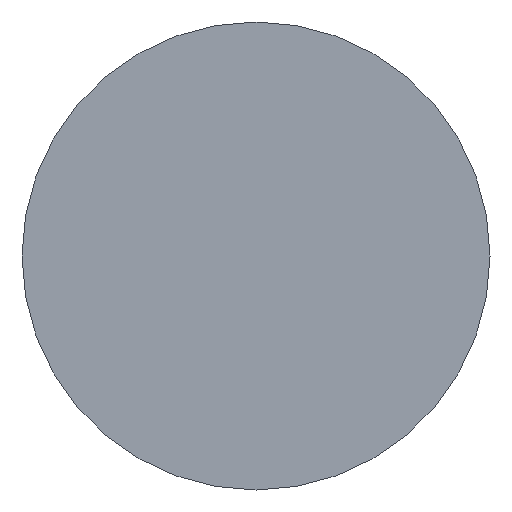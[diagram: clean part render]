
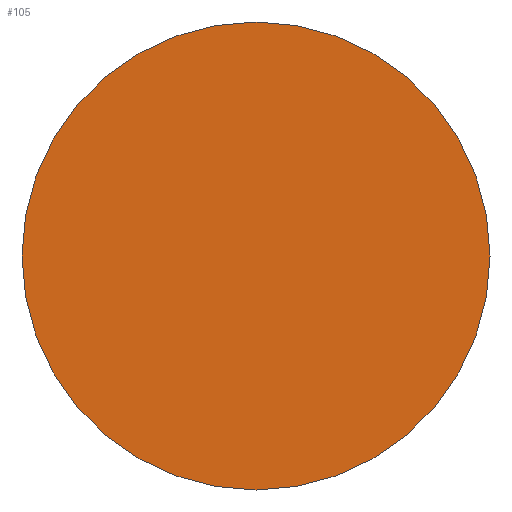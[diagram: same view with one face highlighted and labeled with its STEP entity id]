
A CAD part, front view. The second image highlights one B-rep face of the part: STEP entity #105.
In plain terms, the highlighted planar face has unit normal (0, -1, 0).
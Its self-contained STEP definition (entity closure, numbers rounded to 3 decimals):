
#22 = VERTEX_POINT('',#23);
#23 = CARTESIAN_POINT('',(52.235,38.,-256.978));
#32 = CYLINDRICAL_SURFACE('',#33,2.);
#33 = AXIS2_PLACEMENT_3D('',#34,#35,#36);
#34 = CARTESIAN_POINT('',(50.235,38.,-256.978));
#35 = DIRECTION('',(0.,-1.,-0.));
#36 = DIRECTION('',(1.,0.,0.));
#79 = EDGE_CURVE('',#22,#22,#80,.T.);
#80 = SURFACE_CURVE('',#81,(#86,#93),.PCURVE_S1.);
#81 = CIRCLE('',#82,2.);
#82 = AXIS2_PLACEMENT_3D('',#83,#84,#85);
#83 = CARTESIAN_POINT('',(50.235,38.,-256.978));
#84 = DIRECTION('',(-0.,1.,0.));
#85 = DIRECTION('',(1.,0.,0.));
#86 = PCURVE('',#32,#87);
#87 = DEFINITIONAL_REPRESENTATION('',(#88),#92);
#88 = LINE('',#89,#90);
#89 = CARTESIAN_POINT('',(-0.,0.));
#90 = VECTOR('',#91,1.);
#91 = DIRECTION('',(-1.,0.));
#92 = ( GEOMETRIC_REPRESENTATION_CONTEXT(2) 
PARAMETRIC_REPRESENTATION_CONTEXT() REPRESENTATION_CONTEXT('2D SPACE',''
  ) );
#93 = PCURVE('',#94,#99);
#94 = PLANE('',#95);
#95 = AXIS2_PLACEMENT_3D('',#96,#97,#98);
#96 = CARTESIAN_POINT('',(50.235,38.,-256.978));
#97 = DIRECTION('',(0.,1.,0.));
#98 = DIRECTION('',(0.,-0.,1.));
#99 = DEFINITIONAL_REPRESENTATION('',(#100),#104);
#100 = CIRCLE('',#101,2.);
#101 = AXIS2_PLACEMENT_2D('',#102,#103);
#102 = CARTESIAN_POINT('',(0.,0.));
#103 = DIRECTION('',(0.,1.));
#104 = ( GEOMETRIC_REPRESENTATION_CONTEXT(2) 
PARAMETRIC_REPRESENTATION_CONTEXT() REPRESENTATION_CONTEXT('2D SPACE',''
  ) );
#105 = ADVANCED_FACE('',(#106),#94,.F.);
#106 = FACE_BOUND('',#107,.F.);
#107 = EDGE_LOOP('',(#108));
#108 = ORIENTED_EDGE('',*,*,#79,.T.);
